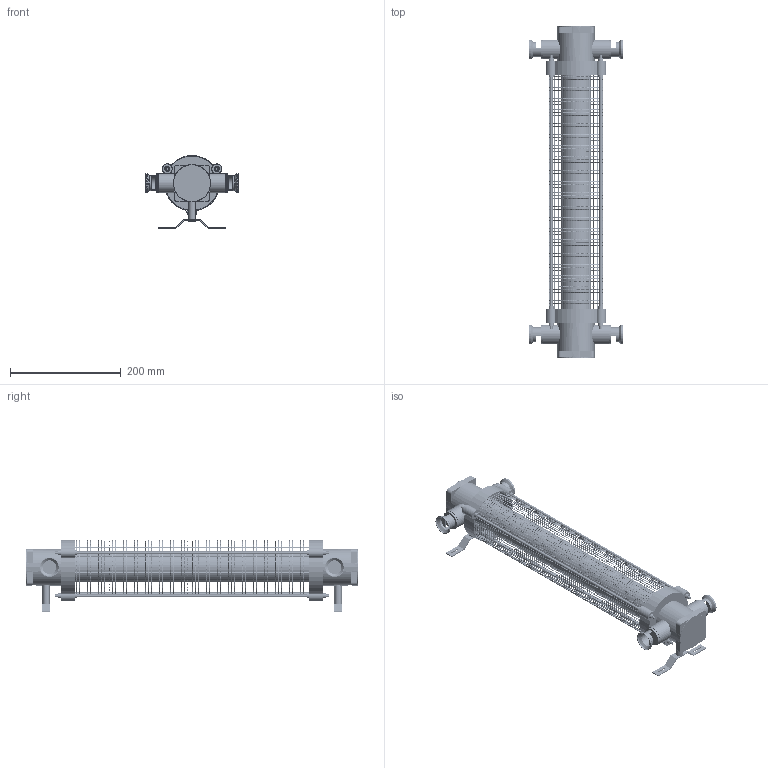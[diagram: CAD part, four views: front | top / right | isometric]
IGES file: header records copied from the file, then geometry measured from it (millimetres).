
Start section: SolidWorks IGES file using analytic representation for surfaces
Global section: file name: F:\燠隴矨\3D\2025-10\Pillar Offset Wall Lamp-H60cm.IGS,15; native system: HSolidWorks 2022; preprocessor: SolidWorks 2022; author: MyPC; date: 251002.175849; units: millimetre
Bounding box: 168.19 x 600 x 131.74 mm (x, y, z)
Surface area: 403523.4 mm2 (no closed solid volume)
Topology: 0 solids, 0 shells, 824 faces, 9048 edges, 9048 vertices
Faces by surface type: bspline 594, revolution 230
